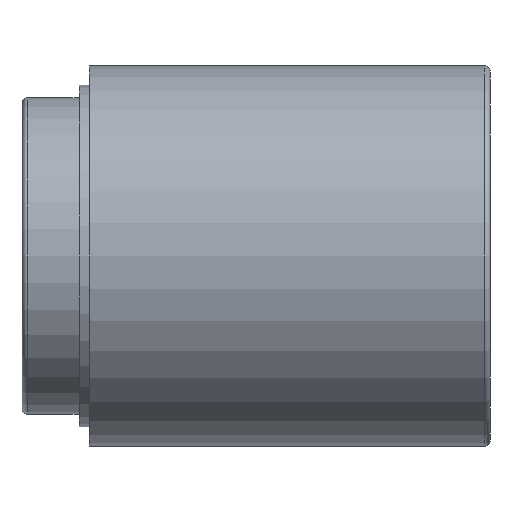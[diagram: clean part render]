
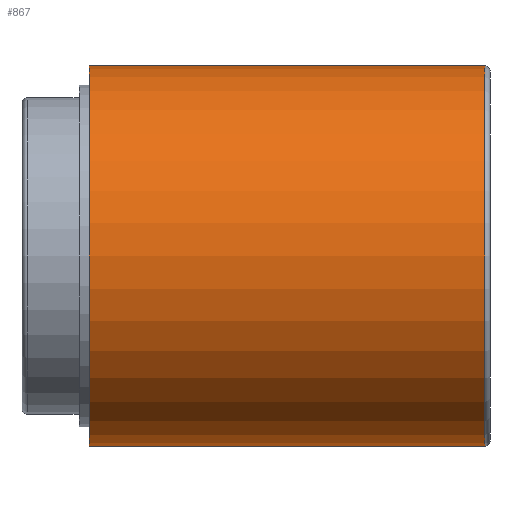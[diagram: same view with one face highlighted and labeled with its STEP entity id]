
A CAD part, left-side view. The second image highlights one B-rep face of the part: STEP entity #867.
In plain terms, the highlighted cylindrical face has radius 28.245 mm (diameter 56.49 mm), a partial arc.
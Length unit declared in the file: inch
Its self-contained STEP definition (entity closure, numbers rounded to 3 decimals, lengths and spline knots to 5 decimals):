
#1 = CARTESIAN_POINT ( 'NONE',  ( 0., 2.343, 1.112 ) ) ;
#11 = CARTESIAN_POINT ( 'NONE',  ( 0., 2.343, 1.112 ) ) ;
#45 = DIRECTION ( 'NONE',  ( 0., -1., 0. ) ) ;
#54 = VECTOR ( 'NONE', #883, 39.37008 ) ;
#93 = CYLINDRICAL_SURFACE ( 'NONE', #190, 1.112 ) ;
#108 = DIRECTION ( 'NONE',  ( 0., 0., 1. ) ) ;
#153 = DIRECTION ( 'NONE',  ( 0., 1., 0. ) ) ;
#176 = DIRECTION ( 'NONE',  ( 0., -1., 0. ) ) ;
#182 = CARTESIAN_POINT ( 'NONE',  ( 0., 2.343, -1.112 ) ) ;
#185 = CIRCLE ( 'NONE', #260, 1.112 ) ;
#190 = AXIS2_PLACEMENT_3D ( 'NONE', #541, #45, #747 ) ;
#191 = CARTESIAN_POINT ( 'NONE',  ( 0., 0.03, 0. ) ) ;
#199 = VERTEX_POINT ( 'NONE', #182 ) ;
#240 = ORIENTED_EDGE ( 'NONE', *, *, #449, .F. ) ;
#248 = LINE ( 'NONE', #11, #1006 ) ;
#254 = VERTEX_POINT ( 'NONE', #261 ) ;
#260 = AXIS2_PLACEMENT_3D ( 'NONE', #726, #153, #638 ) ;
#261 = CARTESIAN_POINT ( 'NONE',  ( 0., 0.03, 1.112 ) ) ;
#320 = VERTEX_POINT ( 'NONE', #1 ) ;
#350 = VERTEX_POINT ( 'NONE', #496 ) ;
#425 = AXIS2_PLACEMENT_3D ( 'NONE', #191, #676, #108 ) ;
#449 = EDGE_CURVE ( 'NONE', #199, #320, #185, .T. ) ;
#485 = ORIENTED_EDGE ( 'NONE', *, *, #845, .F. ) ;
#492 = LINE ( 'NONE', #1054, #54 ) ;
#496 = CARTESIAN_POINT ( 'NONE',  ( 0., 0.03, -1.112 ) ) ;
#541 = CARTESIAN_POINT ( 'NONE',  ( 0., 2.343, 0. ) ) ;
#550 = ORIENTED_EDGE ( 'NONE', *, *, #727, .T. ) ;
#555 = FACE_OUTER_BOUND ( 'NONE', #737, .T. ) ;
#638 = DIRECTION ( 'NONE',  ( 0., 0., 1. ) ) ;
#650 = EDGE_CURVE ( 'NONE', #199, #350, #492, .T. ) ;
#676 = DIRECTION ( 'NONE',  ( 0., 1., 0. ) ) ;
#684 = CIRCLE ( 'NONE', #425, 1.112 ) ;
#726 = CARTESIAN_POINT ( 'NONE',  ( 0., 2.343, 0. ) ) ;
#727 = EDGE_CURVE ( 'NONE', #350, #254, #684, .T. ) ;
#737 = EDGE_LOOP ( 'NONE', ( #485, #240, #1039, #550 ) ) ;
#747 = DIRECTION ( 'NONE',  ( 0., 0., -1. ) ) ;
#845 = EDGE_CURVE ( 'NONE', #320, #254, #248, .T. ) ;
#867 = ADVANCED_FACE ( 'NONE', ( #555 ), #93, .T. ) ;
#883 = DIRECTION ( 'NONE',  ( 0., -1., 0. ) ) ;
#1006 = VECTOR ( 'NONE', #176, 39.37008 ) ;
#1039 = ORIENTED_EDGE ( 'NONE', *, *, #650, .T. ) ;
#1054 = CARTESIAN_POINT ( 'NONE',  ( 0., 2.343, -1.112 ) ) ;
